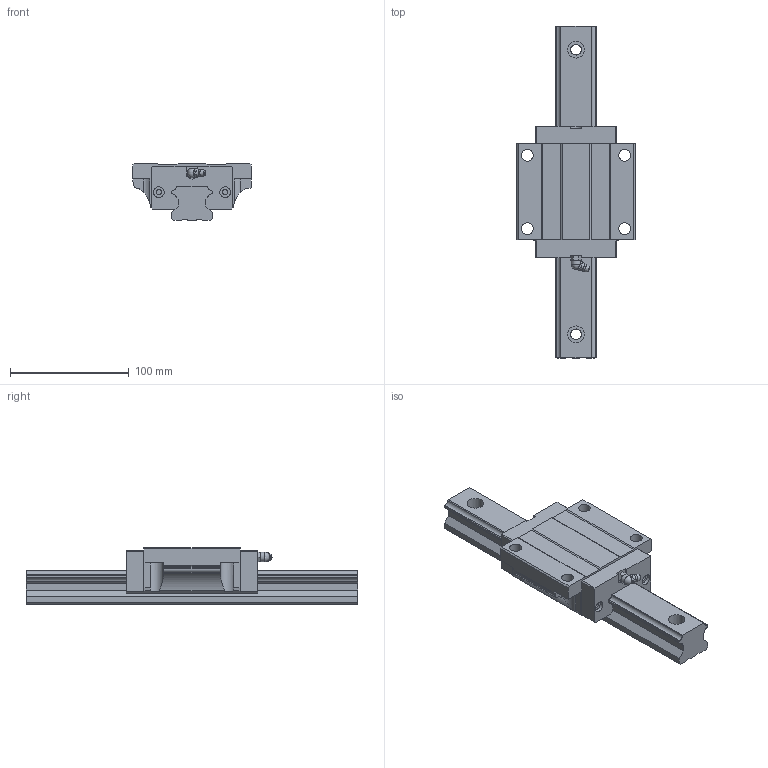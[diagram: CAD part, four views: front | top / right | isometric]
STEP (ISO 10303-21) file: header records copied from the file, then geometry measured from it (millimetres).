
FILE_DESCRIPTION(/* description */ (''),/* implementation_level */ '2;1');
FILE_NAME(/* name */ 'MSA35E',/* time_stamp */ '2003-12-26T14:18:32+08:00',/* author */ (''),/* organization */ (''),/* preprocessor_version */ 'ST-DEVELOPER v9',/* originating_system */ '',/* authorisation */ '');
FILE_SCHEMA (('CONFIG_CONTROL_DESIGN'));
Length unit declared in the file: millimetre
Products named in the file (1): zircDFD6hlxx
Bounding box: 100 x 280 x 48 mm (x, y, z)
Volume: 495174 mm3; surface area: 82452.1 mm2
Topology: 3 solids, 3 shells, 203 faces, 557 edges, 368 vertices
Faces by surface type: plane 147, cylinder 45, torus 7, sphere 2, cone 1, bspline 1
Full cylindrical faces by diameter (mm): 4.5 x4, 8 x1, 9 x8, 10 x4, 14 x4
Entity records: 6475 total; most frequent: CARTESIAN_POINT 1284, ORIENTED_EDGE 1046, DIRECTION 1034, EDGE_CURVE 523, LINE 366, VECTOR 366, VERTEX_POINT 360, AXIS2_PLACEMENT_3D 334
